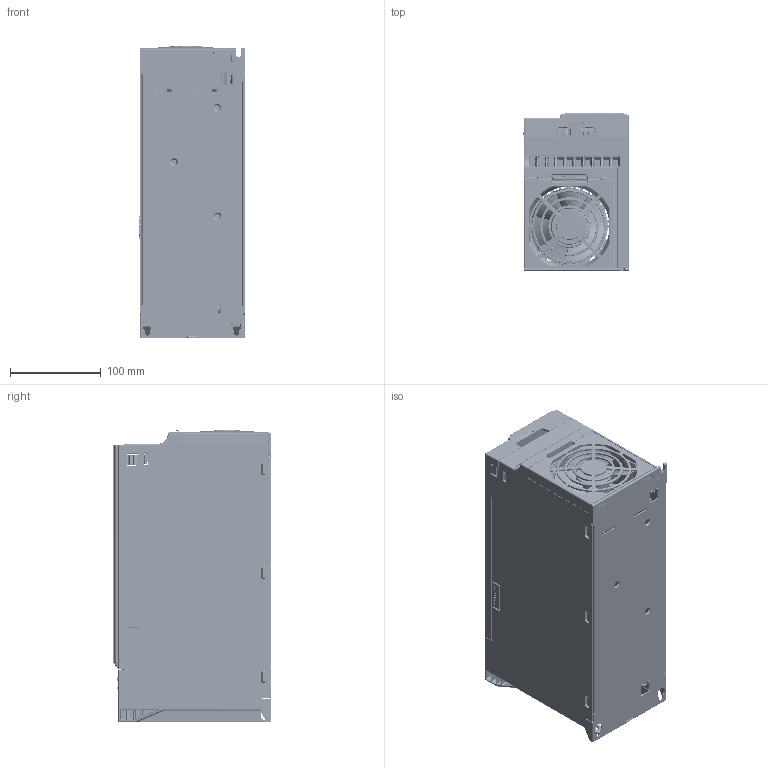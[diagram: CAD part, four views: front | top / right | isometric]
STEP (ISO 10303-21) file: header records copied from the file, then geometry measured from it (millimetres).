
FILE_DESCRIPTION(/* description */ (''),/* implementation_level */ '2;1');
FILE_NAME(/* name */ 'C:\Users\U390257\OneDrive - Danfoss\Documents\Работа\Текущие задачи\2022.04.26 Veichi 3D\Готовые модели\ac300-t3-7r5_011-3d\ac300-t3-7r5_011-3d.stp',/* time_stamp */ '2022-04-27T14:41:13+03:00',/* author */ ('U390257'),/* organization */ (''),/* preprocessor_version */ 'ST-DEVELOPER v18.1',/* originating_system */ 'Autodesk Inventor 2020',/* authorisation */ '');
FILE_SCHEMA (('AUTOMOTIVE_DESIGN { 1 0 10303 214 3 1 1 }'));
Products named in the file (1): ac300-t3-7r5_011-3d
Bounding box: 116.3 x 175.3 x 323 mm (x, y, z)
Volume: 819854.1 mm3; surface area: 723360.9 mm2
Topology: 100 solids, 100 shells, 13578 faces, 35789 edges, 22960 vertices
Faces by surface type: plane 8230, bspline 2992, cylinder 2095, torus 124, cone 88, sphere 49
Full cylindrical faces by diameter (mm): 0.1 x4, 0.2 x30, 0.318 x20, 0.5 x22, 0.762 x8, 0.9 x8, 1 x2, 1.5 x12, 1.6 x2, 1.75 x20, 2 x2, 2.1 x1, 2.5 x1, 2.6 x4, 3 x8, 3.6 x3, 3.8 x20, 4 x2, 4.3 x8, 4.5 x1, 5 x2, 5.2 x1, 5.38 x3, 5.4 x2, 5.9 x3, 6 x1, 6.35 x3, 6.5 x10, 6.7 x10, 6.9 x1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
Entity records: 503301 total; most frequent: CARTESIAN_POINT 176275, ORIENTED_EDGE 71520, DIRECTION 60591, EDGE_CURVE 35760, LINE 24703, VECTOR 24703, VERTEX_POINT 22960, AXIS2_PLACEMENT_3D 17944
